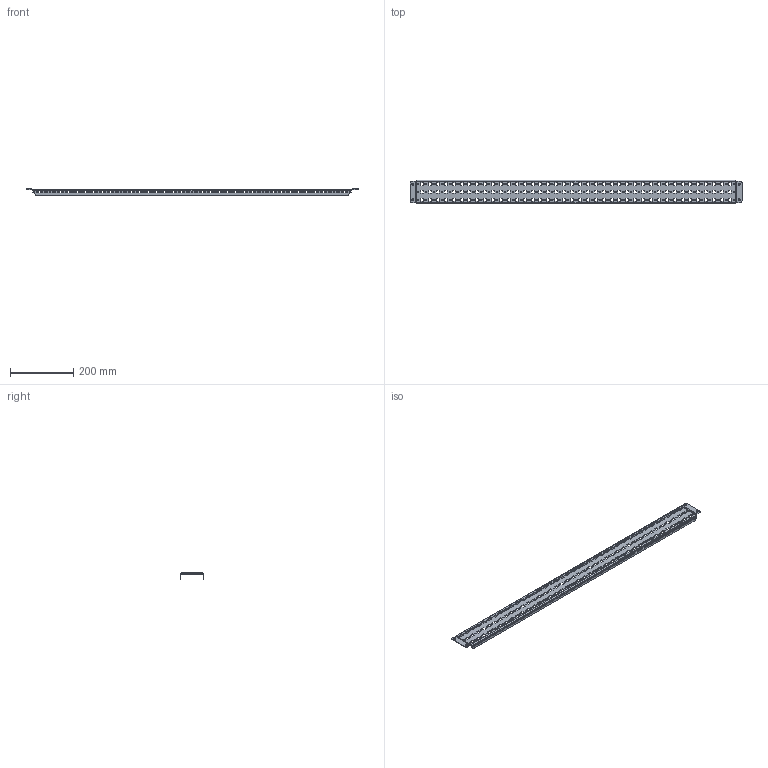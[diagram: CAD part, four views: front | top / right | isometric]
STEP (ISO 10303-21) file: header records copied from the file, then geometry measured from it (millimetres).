
FILE_DESCRIPTION (( 'STEP AP203' ), '1' );
FILE_NAME ('MRD 110.09 Ðåéêà ìîíòàæíàÿ âåðòèêàëüíàÿ.STEP', '2025-05-15T12:32:54', ( '' ), ( '' ), 'SwSTEP 2.0', 'SolidWorks 2019', '' );
FILE_SCHEMA (( 'CONFIG_CONTROL_DESIGN' ));
Products named in the file (1): MRD 110.09 Ðåéêà ìîíòàæíàÿ âåðòèêàëüíàÿ
Bounding box: 1052 x 74 x 19.03 mm (x, y, z)
Volume: 173453.1 mm3; surface area: 198920.5 mm2
Topology: 1 solids, 1 shells, 1928 faces, 5730 edges, 3804 vertices
Faces by surface type: plane 1486, cylinder 442
Entity records: 65747 total; most frequent: CARTESIAN_POINT 11463, ORIENTED_EDGE 11460, DIRECTION 10472, EDGE_CURVE 5730, LINE 4846, VECTOR 4846, VERTEX_POINT 3804, AXIS2_PLACEMENT_3D 2813
